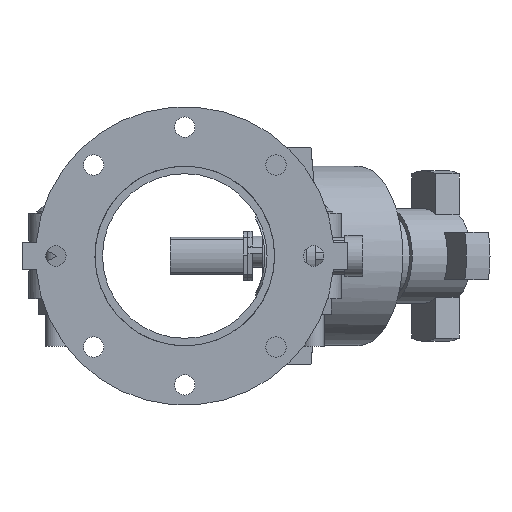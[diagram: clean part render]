
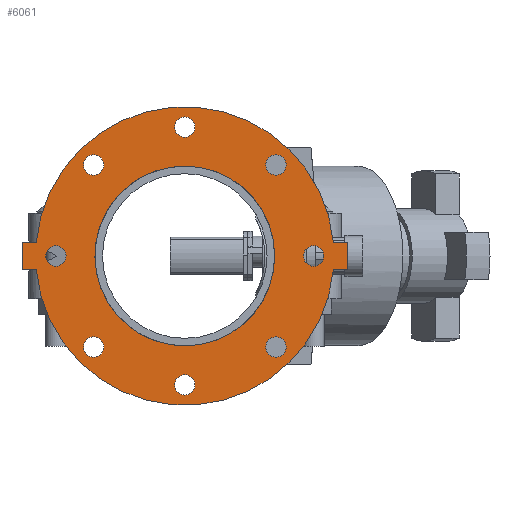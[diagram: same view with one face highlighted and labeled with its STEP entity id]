
A CAD part, front view. The second image highlights one B-rep face of the part: STEP entity #6061.
In plain terms, the highlighted planar face has unit normal (0, -1, 0) as drawn and (0, 0, 1) by its records, which use the part's own axes.
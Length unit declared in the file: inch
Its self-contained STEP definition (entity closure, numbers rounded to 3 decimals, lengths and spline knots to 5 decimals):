
#196=FACE_BOUND('',#802,.T.);
#197=FACE_BOUND('',#803,.T.);
#198=FACE_BOUND('',#804,.T.);
#199=FACE_BOUND('',#805,.T.);
#200=FACE_BOUND('',#806,.T.);
#201=FACE_BOUND('',#807,.T.);
#202=FACE_BOUND('',#808,.T.);
#203=FACE_BOUND('',#809,.T.);
#204=FACE_BOUND('',#810,.T.);
#261=PLANE('',#6585);
#464=FACE_OUTER_BOUND('',#801,.T.);
#801=EDGE_LOOP('',(#3956,#3957,#3958,#3959,#3960,#3961,#3962,#3963));
#802=EDGE_LOOP('',(#3964));
#803=EDGE_LOOP('',(#3965));
#804=EDGE_LOOP('',(#3966));
#805=EDGE_LOOP('',(#3967));
#806=EDGE_LOOP('',(#3968));
#807=EDGE_LOOP('',(#3969));
#808=EDGE_LOOP('',(#3970));
#809=EDGE_LOOP('',(#3971));
#810=EDGE_LOOP('',(#3972,#3973));
#1189=LINE('',#9250,#1649);
#1190=LINE('',#9253,#1650);
#1193=LINE('',#9258,#1653);
#1194=LINE('',#9261,#1654);
#1196=LINE('',#9264,#1656);
#1197=LINE('',#9266,#1657);
#1649=VECTOR('',#7358,0.3937);
#1650=VECTOR('',#7361,0.3937);
#1653=VECTOR('',#7366,0.3937);
#1654=VECTOR('',#7369,0.3937);
#1656=VECTOR('',#7373,0.3937);
#1657=VECTOR('',#7376,0.3937);
#2089=CIRCLE('',#6544,0.375);
#2091=CIRCLE('',#6547,0.375);
#2093=CIRCLE('',#6550,0.375);
#2095=CIRCLE('',#6553,0.375);
#2097=CIRCLE('',#6556,0.375);
#2099=CIRCLE('',#6559,0.375);
#2101=CIRCLE('',#6562,0.375);
#2103=CIRCLE('',#6565,0.375);
#2109=CIRCLE('',#6573,5.5);
#2110=CIRCLE('',#6575,3.3125);
#2111=CIRCLE('',#6576,3.3125);
#2112=CIRCLE('',#6578,5.5);
#2423=VERTEX_POINT('',#9161);
#2425=VERTEX_POINT('',#9167);
#2427=VERTEX_POINT('',#9173);
#2429=VERTEX_POINT('',#9179);
#2431=VERTEX_POINT('',#9185);
#2433=VERTEX_POINT('',#9191);
#2435=VERTEX_POINT('',#9197);
#2437=VERTEX_POINT('',#9203);
#2449=VERTEX_POINT('',#9230);
#2450=VERTEX_POINT('',#9232);
#2451=VERTEX_POINT('',#9236);
#2452=VERTEX_POINT('',#9238);
#2453=VERTEX_POINT('',#9242);
#2454=VERTEX_POINT('',#9244);
#2455=VERTEX_POINT('',#9248);
#2456=VERTEX_POINT('',#9252);
#2457=VERTEX_POINT('',#9256);
#2458=VERTEX_POINT('',#9260);
#3005=EDGE_CURVE('',#2423,#2423,#2089,.T.);
#3008=EDGE_CURVE('',#2425,#2425,#2091,.T.);
#3011=EDGE_CURVE('',#2427,#2427,#2093,.T.);
#3014=EDGE_CURVE('',#2429,#2429,#2095,.T.);
#3017=EDGE_CURVE('',#2431,#2431,#2097,.T.);
#3020=EDGE_CURVE('',#2433,#2433,#2099,.T.);
#3023=EDGE_CURVE('',#2435,#2435,#2101,.T.);
#3026=EDGE_CURVE('',#2437,#2437,#2103,.T.);
#3041=EDGE_CURVE('',#2449,#2450,#2109,.T.);
#3043=EDGE_CURVE('',#2452,#2451,#2110,.T.);
#3044=EDGE_CURVE('',#2451,#2452,#2111,.T.);
#3046=EDGE_CURVE('',#2454,#2453,#2112,.T.);
#3049=EDGE_CURVE('',#2450,#2455,#1189,.T.);
#3050=EDGE_CURVE('',#2456,#2454,#1190,.T.);
#3053=EDGE_CURVE('',#2453,#2457,#1193,.T.);
#3054=EDGE_CURVE('',#2458,#2449,#1194,.T.);
#3056=EDGE_CURVE('',#2457,#2458,#1196,.T.);
#3057=EDGE_CURVE('',#2455,#2456,#1197,.T.);
#3956=ORIENTED_EDGE('',*,*,#3053,.T.);
#3957=ORIENTED_EDGE('',*,*,#3056,.T.);
#3958=ORIENTED_EDGE('',*,*,#3054,.T.);
#3959=ORIENTED_EDGE('',*,*,#3041,.T.);
#3960=ORIENTED_EDGE('',*,*,#3049,.T.);
#3961=ORIENTED_EDGE('',*,*,#3057,.T.);
#3962=ORIENTED_EDGE('',*,*,#3050,.T.);
#3963=ORIENTED_EDGE('',*,*,#3046,.T.);
#3964=ORIENTED_EDGE('',*,*,#3005,.T.);
#3965=ORIENTED_EDGE('',*,*,#3008,.T.);
#3966=ORIENTED_EDGE('',*,*,#3011,.T.);
#3967=ORIENTED_EDGE('',*,*,#3014,.T.);
#3968=ORIENTED_EDGE('',*,*,#3017,.T.);
#3969=ORIENTED_EDGE('',*,*,#3020,.T.);
#3970=ORIENTED_EDGE('',*,*,#3023,.T.);
#3971=ORIENTED_EDGE('',*,*,#3026,.T.);
#3972=ORIENTED_EDGE('',*,*,#3043,.T.);
#3973=ORIENTED_EDGE('',*,*,#3044,.T.);
#6061=ADVANCED_FACE('',(#464,#196,#197,#198,#199,#200,#201,#202,#203,#204),
#261,.T.);
#6544=AXIS2_PLACEMENT_3D('',#9162,#7266,#7267);
#6547=AXIS2_PLACEMENT_3D('',#9168,#7273,#7274);
#6550=AXIS2_PLACEMENT_3D('',#9174,#7280,#7281);
#6553=AXIS2_PLACEMENT_3D('',#9180,#7287,#7288);
#6556=AXIS2_PLACEMENT_3D('',#9186,#7294,#7295);
#6559=AXIS2_PLACEMENT_3D('',#9192,#7301,#7302);
#6562=AXIS2_PLACEMENT_3D('',#9198,#7308,#7309);
#6565=AXIS2_PLACEMENT_3D('',#9204,#7315,#7316);
#6573=AXIS2_PLACEMENT_3D('',#9234,#7340,#7341);
#6575=AXIS2_PLACEMENT_3D('',#9239,#7345,#7346);
#6576=AXIS2_PLACEMENT_3D('',#9240,#7347,#7348);
#6578=AXIS2_PLACEMENT_3D('',#9245,#7352,#7353);
#6585=AXIS2_PLACEMENT_3D('',#9267,#7377,#7378);
#7266=DIRECTION('center_axis',(0.,0.,-1.));
#7267=DIRECTION('ref_axis',(-0.707,0.707,0.));
#7273=DIRECTION('center_axis',(0.,0.,-1.));
#7274=DIRECTION('ref_axis',(0.,1.,0.));
#7280=DIRECTION('center_axis',(0.,0.,-1.));
#7281=DIRECTION('ref_axis',(0.707,0.707,0.));
#7287=DIRECTION('center_axis',(0.,0.,-1.));
#7288=DIRECTION('ref_axis',(1.,0.,0.));
#7294=DIRECTION('center_axis',(0.,0.,-1.));
#7295=DIRECTION('ref_axis',(0.707,-0.707,0.));
#7301=DIRECTION('center_axis',(0.,0.,-1.));
#7302=DIRECTION('ref_axis',(0.,-1.,0.));
#7308=DIRECTION('center_axis',(0.,0.,-1.));
#7309=DIRECTION('ref_axis',(-0.707,-0.707,0.));
#7315=DIRECTION('center_axis',(0.,0.,-1.));
#7316=DIRECTION('ref_axis',(-1.,0.,0.));
#7340=DIRECTION('center_axis',(0.,0.,1.));
#7341=DIRECTION('ref_axis',(-1.,0.,0.));
#7345=DIRECTION('center_axis',(0.,0.,-1.));
#7346=DIRECTION('ref_axis',(-1.,0.,0.));
#7347=DIRECTION('center_axis',(0.,0.,-1.));
#7348=DIRECTION('ref_axis',(-1.,0.,0.));
#7352=DIRECTION('center_axis',(0.,0.,1.));
#7353=DIRECTION('ref_axis',(-1.,0.,0.));
#7358=DIRECTION('',(0.,1.,0.));
#7361=DIRECTION('',(0.,-1.,0.));
#7366=DIRECTION('',(0.,-1.,0.));
#7369=DIRECTION('',(0.,1.,0.));
#7373=DIRECTION('',(1.,0.,0.));
#7376=DIRECTION('',(-1.,0.,0.));
#7377=DIRECTION('center_axis',(0.,0.,1.));
#7378=DIRECTION('ref_axis',(1.,0.,0.));
#9161=CARTESIAN_POINT('',(-3.09359,3.09359,0.5));
#9162=CARTESIAN_POINT('Origin',(-3.35876,3.35876,0.5));
#9167=CARTESIAN_POINT('',(0.,4.375,0.5));
#9168=CARTESIAN_POINT('Origin',(0.,4.75,0.5));
#9173=CARTESIAN_POINT('',(3.09359,3.09359,0.5));
#9174=CARTESIAN_POINT('Origin',(3.35876,3.35876,0.5));
#9179=CARTESIAN_POINT('',(4.375,0.,0.5));
#9180=CARTESIAN_POINT('Origin',(4.75,0.,0.5));
#9185=CARTESIAN_POINT('',(3.09359,-3.09359,0.5));
#9186=CARTESIAN_POINT('Origin',(3.35876,-3.35876,0.5));
#9191=CARTESIAN_POINT('',(0.,-4.375,0.5));
#9192=CARTESIAN_POINT('Origin',(0.,-4.75,0.5));
#9197=CARTESIAN_POINT('',(-3.09359,-3.09359,0.5));
#9198=CARTESIAN_POINT('Origin',(-3.35876,-3.35876,0.5));
#9203=CARTESIAN_POINT('',(-4.375,0.,0.5));
#9204=CARTESIAN_POINT('Origin',(-4.75,0.,0.5));
#9230=CARTESIAN_POINT('',(0.5,-5.47723,0.5));
#9232=CARTESIAN_POINT('',(0.5,5.47723,0.5));
#9234=CARTESIAN_POINT('Origin',(0.,0.,0.5));
#9236=CARTESIAN_POINT('',(3.3125,0.,0.5));
#9238=CARTESIAN_POINT('',(0.5,3.27455,0.5));
#9239=CARTESIAN_POINT('Origin',(0.,0.,0.5));
#9240=CARTESIAN_POINT('Origin',(0.,0.,0.5));
#9242=CARTESIAN_POINT('',(-0.5,-5.47723,0.5));
#9244=CARTESIAN_POINT('',(-0.5,5.47723,0.5));
#9245=CARTESIAN_POINT('Origin',(0.,0.,0.5));
#9248=CARTESIAN_POINT('',(0.5,6.,0.5));
#9250=CARTESIAN_POINT('',(0.5,6.,0.5));
#9252=CARTESIAN_POINT('',(-0.5,6.,0.5));
#9253=CARTESIAN_POINT('',(-0.5,-6.,0.5));
#9256=CARTESIAN_POINT('',(-0.5,-6.,0.5));
#9258=CARTESIAN_POINT('',(-0.5,-6.,0.5));
#9260=CARTESIAN_POINT('',(0.5,-6.,0.5));
#9261=CARTESIAN_POINT('',(0.5,6.,0.5));
#9264=CARTESIAN_POINT('',(0.5,-6.,0.5));
#9266=CARTESIAN_POINT('',(-0.5,6.,0.5));
#9267=CARTESIAN_POINT('Origin',(0.,0.,0.5));
